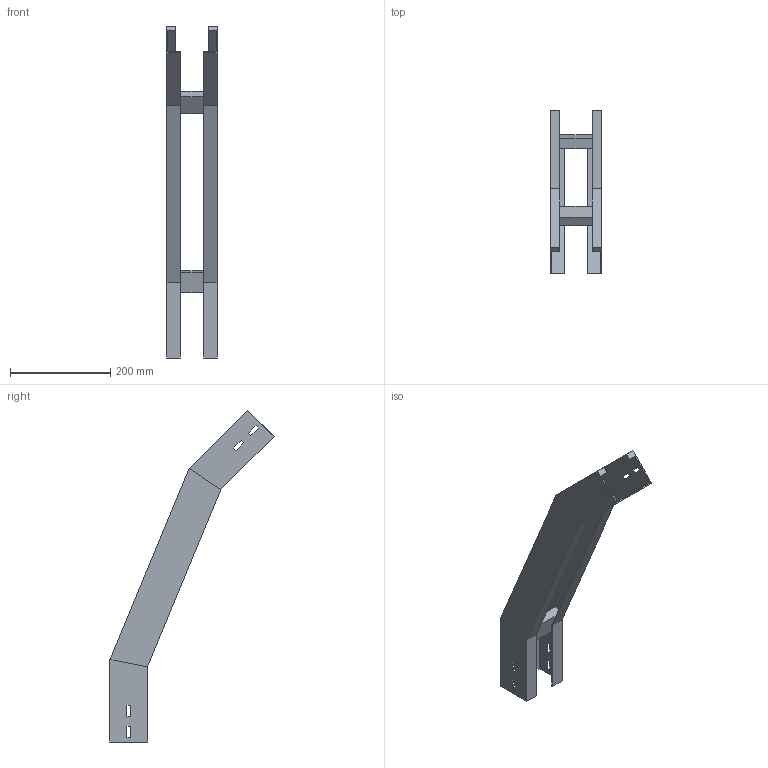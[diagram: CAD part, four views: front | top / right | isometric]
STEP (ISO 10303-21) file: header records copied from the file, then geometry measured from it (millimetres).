
FILE_DESCRIPTION (( 'STEP AP214' ), '1' );
FILE_NAME ('34B5C100.step', '2025-02-21T14:54:12', ( '' ), ( '' ), 'SwSTEP 2.0', 'SolidWorks 2023', '' );
FILE_SCHEMA (( 'AUTOMOTIVE_DESIGN' ));
Length unit declared in the file: millimetre
Products named in the file (3): 34B5C100; LONGH.DISCESA_45°_H75_R500; TRAVERSINO_100
Assembly tree (5 placements, depth 2):
  34B5C100
    LONGH.DISCESA_45°_H75_R500  x2
    TRAVERSINO_100  x3
Bounding box: 100 x 327.63 x 662.94 mm (x, y, z)
Volume: 796400.1 mm3; surface area: 374898.9 mm2
Topology: 5 solids, 5 shells, 102 faces, 244 edges, 152 vertices
Faces by surface type: plane 102
Entity records: 1480 total; most frequent: CARTESIAN_POINT 244, ORIENTED_EDGE 232, DIRECTION 228, LINE 116, EDGE_CURVE 116, VECTOR 116, VERTEX_POINT 72, EDGE_LOOP 56
